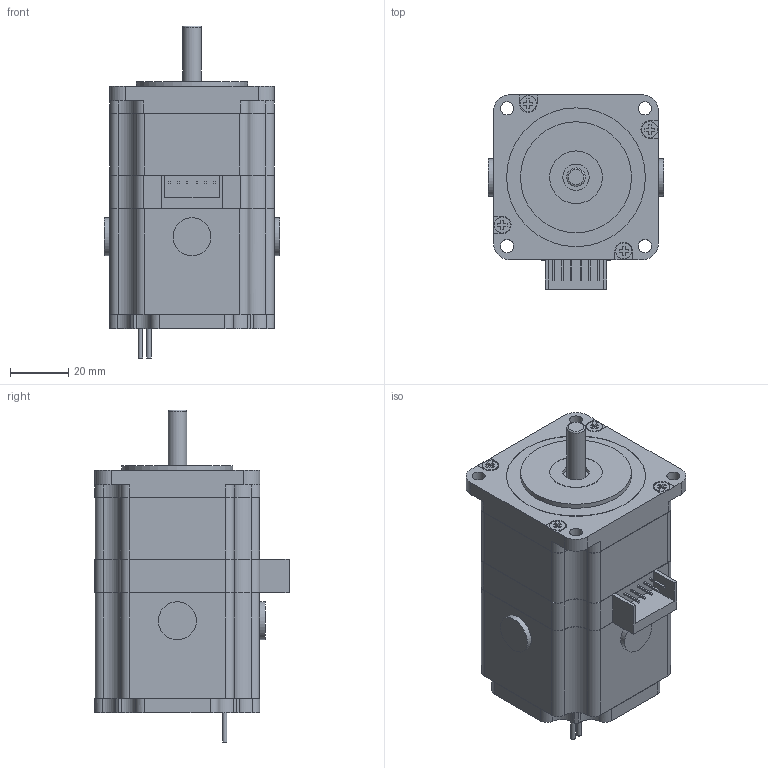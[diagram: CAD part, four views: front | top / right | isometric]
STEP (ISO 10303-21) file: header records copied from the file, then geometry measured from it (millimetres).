
FILE_DESCRIPTION(/* description */ (''),/* implementation_level */ '2;1');
FILE_NAME(/* name */ 'UB57D24-D30-642.stp',/* time_stamp */ '2018-08-20T10:12:22+08:00',/* author */ (''),/* organization */ (''),/* preprocessor_version */ 'ST-DEVELOPER v11',/* originating_system */ 'SIEMENS UGS NX 6.0',/* authorisation */ '');
FILE_SCHEMA (('CONFIG_CONTROL_DESIGN'));
Length unit declared in the file: millimetre
Products named in the file (1): UB57D24-D30-642
Bounding box: 60.2 x 66.4 x 113.6 mm (x, y, z)
Volume: 242029.9 mm3; surface area: 26754.7 mm2
Topology: 4 solids, 5 shells, 264 faces, 685 edges, 456 vertices
Faces by surface type: plane 171, cylinder 92, torus 1
Full cylindrical faces by diameter (mm): 1.5 x2, 4.5 x4, 5.5 x4, 6 x1, 6.35 x1, 9 x2, 13 x3, 18 x1, 38 x1, 47.5 x1
Entity records: 8022 total; most frequent: DIRECTION 1382, CARTESIAN_POINT 1373, ORIENTED_EDGE 1316, EDGE_CURVE 658, LINE 464, VECTOR 464, AXIS2_PLACEMENT_3D 459, VERTEX_POINT 450
